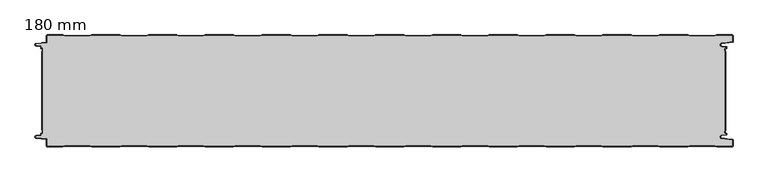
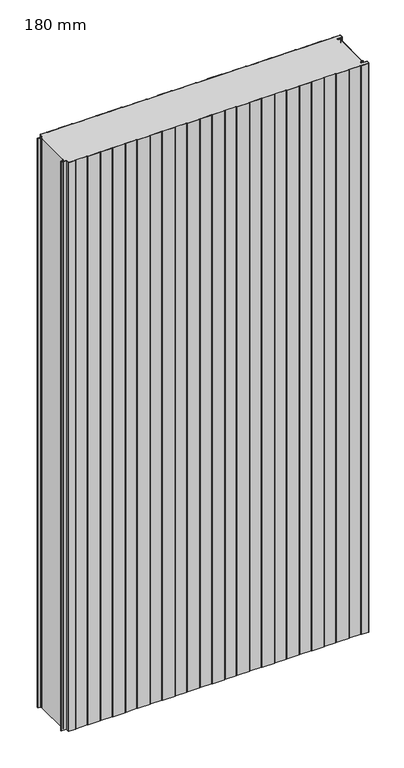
"""IFC4 building model written with IfcOpenShell, lengths in millimetres: plate geometry, HIANSA PANEL - H20.F03.001-PANEL FRIGORÍFICO - PANEL FRIGO - Panel de Muro Cortina : 180 mm."""

from ifc_helpers import new_model, si_unit, point, frame_2d, origin, origin_with_axes, place, context, project, spatial, polyline, circle_curve, trimmed, segment, composite_curve, outline, extrude, source, transform, mapped, element, save


def plate_180_mm_14f23be3(model_context):
    return source(origin(), model_context, "Body", "SweptSolid", [
        extrude(outline(polyline([(555.9827922, -154.0), (555.9827922, -26.0), (556.4221321, -26.6713576), (556.4221321, -153.3286424), (555.9827922, -154.0)])), origin_with_axes(), (0.0, 0.0, 1.0), 2200.0),
        extrude(outline(polyline([(-538.5172078, -26.0), (-538.5172078, -154.0), (-539.1172077, -152.9695032), (-539.1172077, -27.0304968), (-538.5172078, -26.0)])), origin_with_axes(), (0.0, 0.0, 1.0), 2200.0),
        extrude(outline(composite_curve([segment(polyline([(-370.9360691, -1.5), (-411.0983467, -1.5), (-414.0983467, -0.5), (-458.9360691, -0.5), (-461.9360691, -1.5), (-502.0983467, -1.5), (-505.0983467, -0.5), (-529.9172079, -0.5)]), True, "CONTINUOUS"), segment(trimmed(circle_curve(frame_2d((-529.9172079, -1.6)), 1.1), [point((-529.9172079, -0.5))], [point((-531.0172079, -1.6))], True, "CARTESIAN"), True, "CONTINUOUS"), segment(polyline([(-531.0172079, -1.6), (-531.0172079, -11.7987531)]), True, "CONTINUOUS"), segment(trimmed(circle_curve(frame_2d((-532.0172079, -11.7987531)), 1.0), [point((-531.0172079, -11.7987531))], [point((-531.9177042, -12.7937903))], False, "CARTESIAN"), True, "CONTINUOUS"), segment(polyline([(-531.9177042, -12.7937903), (-548.0592062, -14.4079404)]), True, "CONTINUOUS"), segment(trimmed(circle_curve(frame_2d((-547.9000002, -15.9999999)), 1.6), [point((-548.0592062, -14.4079404))], [point((-548.0592062, -17.5920594))], True, "CARTESIAN"), True, "CONTINUOUS"), segment(polyline([(-548.0592062, -17.5920594), (-541.4177042, -18.2562097)]), True, "CONTINUOUS"), segment(trimmed(circle_curve(frame_2d((-541.5172079, -19.2512469)), 1.0), [point((-541.4177042, -18.2562097))], [point((-540.5172079, -19.2512469))], False, "CARTESIAN"), True, "CONTINUOUS"), segment(polyline([(-540.5172079, -19.2512469), (-540.5172079, -21.5), (-539.0172079, -21.5)]), True, "CONTINUOUS"), segment(trimmed(circle_curve(frame_2d((-539.0172079, -22.5)), 1.0), [point((-539.0172079, -21.5))], [point((-538.0172079, -22.5))], False, "CARTESIAN"), True, "CONTINUOUS"), segment(polyline([(-538.0172079, -22.5), (-538.0172079, -25.1412526), (-538.5172079, -26.0), (-538.5172079, -22.0), (-540.0172079, -22.0)]), True, "CONTINUOUS"), segment(trimmed(circle_curve(frame_2d((-540.0172079, -21.0)), 1.0), [point((-540.0172079, -22.0))], [point((-541.0172079, -21.0))], False, "CARTESIAN"), True, "CONTINUOUS"), segment(polyline([(-541.0172079, -21.0), (-541.0172079, -18.7987531), (-548.1089579, -18.0895783)]), True, "CONTINUOUS"), segment(trimmed(circle_curve(frame_2d((-547.9000002, -16.0000002)), 2.1), [point((-548.1089579, -18.0895783))], [point((-548.108958, -13.9104221))], False, "CARTESIAN"), True, "CONTINUOUS"), segment(polyline([(-548.108958, -13.9104221), (-531.5172079, -12.2512469), (-531.5172079, -1.6)]), True, "CONTINUOUS"), segment(trimmed(circle_curve(frame_2d((-529.9172079, -1.6)), 1.6), [point((-531.5172079, -1.6))], [point((-529.9172079, 0.0))], False, "CARTESIAN"), True, "CONTINUOUS"), segment(polyline([(-529.9172079, 0.0), (-505.0172079, 0.0), (-502.0172079, -1.0), (-462.0172079, -1.0), (-459.0172079, 0.0), (-414.0172079, 0.0), (-411.0172079, -1.0), (-371.0172079, -1.0), (-368.0172079, 0.0), (-323.0172079, 0.0), (-320.0172079, -1.0), (-280.0172079, -1.0), (-277.0172079, 0.0), (-232.0172079, 0.0), (-229.0172079, -1.0), (-189.0172079, -1.0), (-186.0172079, 0.0), (-141.0172079, 0.0), (-138.0172079, -1.0), (-98.0172079, -1.0), (-95.0172079, 0.0), (-50.0172079, 0.0), (-47.0172079, -1.0), (-7.0172079, -1.0), (-4.0172079, 0.0), (40.9827921, 0.0), (43.9827921, -1.0), (83.9827921, -1.0), (86.9827921, 0.0), (131.9827921, 0.0), (134.9827921, -1.0), (174.9827921, -1.0), (177.9827921, 0.0), (222.9827921, 0.0), (225.9827921, -1.0), (265.9827921, -1.0), (268.9827921, 0.0), (313.9827921, 0.0), (316.9827921, -1.0), (356.9827921, -1.0), (359.9827921, 0.0), (404.9827921, 0.0), (407.9827921, -1.0), (447.9827921, -1.0), (450.9827921, 0.0), (495.9827921, 0.0), (498.9827921, -1.0), (538.9827921, -1.0), (541.9827921, 0.0), (566.8827921, 0.0)]), True, "CONTINUOUS"), segment(trimmed(circle_curve(frame_2d((566.8827921, -1.6)), 1.6), [point((566.8827921, 0.0))], [point((568.4827921, -1.6))], False, "CARTESIAN"), True, "CONTINUOUS"), segment(polyline([(568.4827921, -1.6), (568.4827921, -11.0950124)]), True, "CONTINUOUS"), segment(trimmed(circle_curve(frame_2d((567.4827921, -11.0950124)), 1.0), [point((568.4827921, -11.0950124))], [point((567.5822958, -12.0900496))], False, "CARTESIAN"), True, "CONTINUOUS"), segment(polyline([(567.5822958, -12.0900496), (550.2837847, -13.8199007)]), True, "CONTINUOUS"), segment(trimmed(circle_curve(frame_2d((550.5873461, -16.0)), 2.2011321), [point((550.2837847, -13.8199007))], [point((550.2837847, -18.1800993))], True, "CARTESIAN"), True, "CONTINUOUS"), segment(polyline([(550.2837847, -18.1800993), (557.5822958, -18.9099504)]), True, "CONTINUOUS"), segment(trimmed(circle_curve(frame_2d((557.4827921, -19.9049876)), 1.0), [point((557.5822958, -18.9099504))], [point((558.4827921, -19.9049876))], False, "CARTESIAN"), True, "CONTINUOUS"), segment(polyline([(558.4827921, -19.9049876), (558.4827921, -21.0)]), True, "CONTINUOUS"), segment(trimmed(circle_curve(frame_2d((557.4827921, -21.0)), 1.0), [point((558.4827921, -21.0))], [point((557.4827921, -22.0))], False, "CARTESIAN"), True, "CONTINUOUS"), segment(polyline([(557.4827921, -22.0), (555.9827921, -22.0), (555.9827921, -26.0), (555.4827921, -25.2359473), (555.4827921, -22.5)]), True, "CONTINUOUS"), segment(trimmed(circle_curve(frame_2d((556.4827921, -22.5)), 1.0), [point((555.4827921, -22.5))], [point((556.4827921, -21.5))], False, "CARTESIAN"), True, "CONTINUOUS"), segment(polyline([(556.4827921, -21.5), (557.9827921, -21.5), (557.9827921, -19.4524938), (550.2340328, -18.6776179)]), True, "CONTINUOUS"), segment(trimmed(circle_curve(frame_2d((550.5859823, -16.0)), 2.7006492), [point((550.2340328, -18.6776179))], [point((550.2340328, -13.3223821))], False, "CARTESIAN"), True, "CONTINUOUS"), segment(polyline([(550.2340328, -13.3223821), (567.9827921, -11.5475062), (567.9827921, -1.6)]), True, "CONTINUOUS"), segment(trimmed(circle_curve(frame_2d((566.8827921, -1.6)), 1.1), [point((567.9827921, -1.6))], [point((566.8827921, -0.5))], True, "CARTESIAN"), True, "CONTINUOUS"), segment(polyline([(566.8827921, -0.5), (542.0639309, -0.5), (539.0639309, -1.5), (498.9016533, -1.5), (495.9016533, -0.5), (451.0639309, -0.5), (448.0639309, -1.5), (407.9016533, -1.5), (404.9016533, -0.5), (360.0639309, -0.5), (357.0639309, -1.5), (316.9016533, -1.5), (313.9016533, -0.5), (269.0639309, -0.5), (266.0639309, -1.5), (225.9016533, -1.5), (222.9016533, -0.5), (178.0639309, -0.5), (175.0639309, -1.5), (134.9016533, -1.5), (131.9016533, -0.5), (87.0639309, -0.5), (84.0639309, -1.5), (43.9016533, -1.5), (40.9016533, -0.5), (-3.9360691, -0.5), (-6.9360691, -1.5), (-47.0983467, -1.5), (-50.0983467, -0.5), (-94.9360691, -0.5), (-97.9360691, -1.5), (-138.0983467, -1.5), (-141.0983467, -0.5), (-185.9360691, -0.5), (-188.9360691, -1.5), (-229.0983467, -1.5), (-232.0983467, -0.5), (-276.9360691, -0.5), (-279.9360691, -1.5), (-320.0983467, -1.5), (-323.0983467, -0.5), (-367.9360691, -0.5), (-370.9360691, -1.5)]), True, "CONTINUOUS")], self_intersect=False)), origin_with_axes(), (0.0, 0.0, 1.0), 2200.0),
        extrude(outline(composite_curve([segment(polyline([(-370.9360691, -178.5), (-367.9360691, -179.5), (-323.0983467, -179.5), (-320.0983467, -178.5), (-279.9360691, -178.5), (-276.9360691, -179.5), (-232.0983467, -179.5), (-229.0983467, -178.5), (-188.9360691, -178.5), (-185.9360691, -179.5), (-141.0983467, -179.5), (-138.0983467, -178.5), (-97.9360691, -178.5), (-94.9360691, -179.5), (-50.0983467, -179.5), (-47.0983467, -178.5), (-6.9360691, -178.5), (-3.9360691, -179.5), (40.9016533, -179.5), (43.9016533, -178.5), (84.0639309, -178.5), (87.0639309, -179.5), (131.9016533, -179.5), (134.9016533, -178.5), (175.0639309, -178.5), (178.0639309, -179.5), (222.9016533, -179.5), (225.9016533, -178.5), (266.0639309, -178.5), (269.0639309, -179.5), (313.9016533, -179.5), (316.9016533, -178.5), (357.0639309, -178.5), (360.0639309, -179.5), (404.9016533, -179.5), (407.9016533, -178.5), (448.0639309, -178.5), (451.0639309, -179.5), (495.9016533, -179.5), (498.9016533, -178.5), (539.0639309, -178.5), (542.0639309, -179.5), (566.8827921, -179.5)]), True, "CONTINUOUS"), segment(trimmed(circle_curve(frame_2d((566.8827921, -178.4)), 1.1), [point((566.8827921, -179.5))], [point((567.9827921, -178.4))], True, "CARTESIAN"), True, "CONTINUOUS"), segment(polyline([(567.9827921, -178.4), (567.9827921, -168.4524938), (550.2340328, -166.6776179)]), True, "CONTINUOUS"), segment(trimmed(circle_curve(frame_2d((550.5859823, -164.0)), 2.7006492), [point((550.2340328, -166.6776179))], [point((550.2340328, -161.3223821))], False, "CARTESIAN"), True, "CONTINUOUS"), segment(polyline([(550.2340328, -161.3223821), (557.9827921, -160.5475062), (557.9827921, -158.5), (556.4827921, -158.5)]), True, "CONTINUOUS"), segment(trimmed(circle_curve(frame_2d((556.4827921, -157.5)), 1.0), [point((556.4827921, -158.5))], [point((555.4827921, -157.5))], False, "CARTESIAN"), True, "CONTINUOUS"), segment(polyline([(555.4827921, -157.5), (555.4827921, -154.7640527), (555.9827921, -154.0), (555.9827921, -158.0), (557.4827921, -158.0)]), True, "CONTINUOUS"), segment(trimmed(circle_curve(frame_2d((557.4827921, -159.0)), 1.0), [point((557.4827921, -158.0))], [point((558.4827921, -159.0))], False, "CARTESIAN"), True, "CONTINUOUS"), segment(polyline([(558.4827921, -159.0), (558.4827921, -160.0950124)]), True, "CONTINUOUS"), segment(trimmed(circle_curve(frame_2d((557.4827921, -160.0950124)), 1.0), [point((558.4827921, -160.0950124))], [point((557.5822958, -161.0900496))], False, "CARTESIAN"), True, "CONTINUOUS"), segment(polyline([(557.5822958, -161.0900496), (550.2837847, -161.8199007)]), True, "CONTINUOUS"), segment(trimmed(circle_curve(frame_2d((550.5873461, -164.0)), 2.2011321), [point((550.2837847, -161.8199007))], [point((550.2837847, -166.1800993))], True, "CARTESIAN"), True, "CONTINUOUS"), segment(polyline([(550.2837847, -166.1800993), (567.5822958, -167.9099504)]), True, "CONTINUOUS"), segment(trimmed(circle_curve(frame_2d((567.4827921, -168.9049876)), 1.0), [point((567.5822958, -167.9099504))], [point((568.4827921, -168.9049876))], False, "CARTESIAN"), True, "CONTINUOUS"), segment(polyline([(568.4827921, -168.9049876), (568.4827921, -178.4)]), True, "CONTINUOUS"), segment(trimmed(circle_curve(frame_2d((566.8827921, -178.4)), 1.6), [point((568.4827921, -178.4))], [point((566.8827921, -180.0))], False, "CARTESIAN"), True, "CONTINUOUS"), segment(polyline([(566.8827921, -180.0), (541.9827921, -180.0), (538.9827921, -179.0), (498.9827921, -179.0), (495.9827921, -180.0), (450.9827921, -180.0), (447.9827921, -179.0), (407.9827921, -179.0), (404.9827921, -180.0), (359.9827921, -180.0), (356.9827921, -179.0), (316.9827921, -179.0), (313.9827921, -180.0), (268.9827921, -180.0), (265.9827921, -179.0), (225.9827921, -179.0), (222.9827921, -180.0), (177.9827921, -180.0), (174.9827921, -179.0), (134.9827921, -179.0), (131.9827921, -180.0), (86.9827921, -180.0), (83.9827921, -179.0), (43.9827921, -179.0), (40.9827921, -180.0), (-4.0172079, -180.0), (-7.0172079, -179.0), (-47.0172079, -179.0), (-50.0172079, -180.0), (-95.0172079, -180.0), (-98.0172079, -179.0), (-138.0172079, -179.0), (-141.0172079, -180.0), (-186.0172079, -180.0), (-189.0172079, -179.0), (-229.0172079, -179.0), (-232.0172079, -180.0), (-277.0172079, -180.0), (-280.0172079, -179.0), (-320.0172079, -179.0), (-323.0172079, -180.0), (-368.0172079, -180.0), (-371.0172079, -179.0), (-411.0172079, -179.0), (-414.0172079, -180.0), (-459.0172079, -180.0), (-462.0172079, -179.0), (-502.0172079, -179.0), (-505.0172079, -180.0), (-529.9172079, -180.0)]), True, "CONTINUOUS"), segment(trimmed(circle_curve(frame_2d((-529.9172079, -178.4)), 1.6), [point((-529.9172079, -180.0))], [point((-531.5172079, -178.4))], False, "CARTESIAN"), True, "CONTINUOUS"), segment(polyline([(-531.5172079, -178.4), (-531.5172079, -167.7487531), (-548.108958, -166.0895779)]), True, "CONTINUOUS"), segment(trimmed(circle_curve(frame_2d((-547.9000002, -163.9999998)), 2.1), [point((-548.108958, -166.0895779))], [point((-548.1089579, -161.9104217))], False, "CARTESIAN"), True, "CONTINUOUS"), segment(polyline([(-548.1089579, -161.9104217), (-541.0172079, -161.2012469), (-541.0172079, -159.0)]), True, "CONTINUOUS"), segment(trimmed(circle_curve(frame_2d((-540.0172079, -159.0)), 1.0), [point((-541.0172079, -159.0))], [point((-540.0172079, -158.0))], False, "CARTESIAN"), True, "CONTINUOUS"), segment(polyline([(-540.0172079, -158.0), (-538.5172079, -158.0), (-538.5172079, -154.0), (-538.0172079, -154.8587474), (-538.0172079, -157.5)]), True, "CONTINUOUS"), segment(trimmed(circle_curve(frame_2d((-539.0172079, -157.5)), 1.0), [point((-538.0172079, -157.5))], [point((-539.0172079, -158.5))], False, "CARTESIAN"), True, "CONTINUOUS"), segment(polyline([(-539.0172079, -158.5), (-540.5172079, -158.5), (-540.5172079, -160.7487531)]), True, "CONTINUOUS"), segment(trimmed(circle_curve(frame_2d((-541.5172079, -160.7487531)), 1.0), [point((-540.5172079, -160.7487531))], [point((-541.4177042, -161.7437903))], False, "CARTESIAN"), True, "CONTINUOUS"), segment(polyline([(-541.4177042, -161.7437903), (-548.0592062, -162.4079406)]), True, "CONTINUOUS"), segment(trimmed(circle_curve(frame_2d((-547.9000002, -164.0000001)), 1.6), [point((-548.0592062, -162.4079406))], [point((-548.0592062, -165.5920596))], True, "CARTESIAN"), True, "CONTINUOUS"), segment(polyline([(-548.0592062, -165.5920596), (-531.9177042, -167.2062097)]), True, "CONTINUOUS"), segment(trimmed(circle_curve(frame_2d((-532.0172079, -168.2012469)), 1.0), [point((-531.9177042, -167.2062097))], [point((-531.0172079, -168.2012469))], False, "CARTESIAN"), True, "CONTINUOUS"), segment(polyline([(-531.0172079, -168.2012469), (-531.0172079, -178.4)]), True, "CONTINUOUS"), segment(trimmed(circle_curve(frame_2d((-529.9172079, -178.4)), 1.1), [point((-531.0172079, -178.4))], [point((-529.9172079, -179.5))], True, "CARTESIAN"), True, "CONTINUOUS"), segment(polyline([(-529.9172079, -179.5), (-505.0983467, -179.5), (-502.0983467, -178.5), (-461.9360691, -178.5), (-458.9360691, -179.5), (-414.0983467, -179.5), (-411.0983467, -178.5), (-370.9360691, -178.5)]), True, "CONTINUOUS")], self_intersect=False)), origin_with_axes(), (0.0, 0.0, 1.0), 2200.0),
        extrude(outline(composite_curve([segment(polyline([(-461.936069, -1.5), (-458.936069, -0.5), (-414.0983467, -0.5), (-411.0983467, -1.5), (-370.936069, -1.5), (-367.936069, -0.5), (-323.0983467, -0.5), (-320.0983467, -1.5), (-279.936069, -1.5), (-276.936069, -0.5), (-232.0983467, -0.5), (-229.0983467, -1.5), (-188.936069, -1.5), (-185.936069, -0.5), (-141.0983467, -0.5), (-138.0983467, -1.5), (-97.936069, -1.5), (-94.936069, -0.5), (-50.0983467, -0.5), (-47.0983467, -1.5), (-6.936069, -1.5), (-3.936069, -0.5), (40.9016533, -0.5), (43.9016533, -1.5), (84.063931, -1.5), (87.063931, -0.5), (131.9016533, -0.5), (134.9016533, -1.5), (175.063931, -1.5), (178.063931, -0.5), (222.9016533, -0.5), (225.9016533, -1.5), (266.063931, -1.5), (269.063931, -0.5), (313.9016533, -0.5), (316.9016533, -1.5), (357.063931, -1.5), (360.063931, -0.5), (404.9016533, -0.5), (407.9016533, -1.5), (448.063931, -1.5), (451.063931, -0.5), (495.9016533, -0.5), (498.9016533, -1.5), (539.063931, -1.5), (542.063931, -0.5), (566.8827921, -0.5)]), True, "CONTINUOUS"), segment(trimmed(circle_curve(frame_2d((566.8827921, -1.6)), 1.1), [point((566.8827921, -0.5))], [point((567.9827921, -1.6))], False, "CARTESIAN"), True, "CONTINUOUS"), segment(polyline([(567.9827921, -1.6), (567.9827921, -11.5475062), (550.2340328, -13.3223821)]), True, "CONTINUOUS"), segment(trimmed(circle_curve(frame_2d((550.5859824, -16.0)), 2.7006492), [point((550.2340328, -13.3223821))], [point((550.2340328, -18.6776179))], True, "CARTESIAN"), True, "CONTINUOUS"), segment(polyline([(550.2340328, -18.6776179), (557.9827921, -19.4524938), (557.9827921, -21.5), (556.4827921, -21.5)]), True, "CONTINUOUS"), segment(trimmed(circle_curve(frame_2d((556.4827921, -22.5)), 1.0), [point((556.4827921, -21.5))], [point((555.4827921, -22.5))], True, "CARTESIAN"), True, "CONTINUOUS"), segment(polyline([(555.4827921, -22.5), (555.4827921, -25.2359473), (555.9827921, -26.0), (555.9827921, -154.0), (555.4827921, -154.7640527), (555.4827921, -157.5)]), True, "CONTINUOUS"), segment(trimmed(circle_curve(frame_2d((556.4827921, -157.5)), 1.0), [point((555.4827921, -157.5))], [point((556.4827921, -158.5))], True, "CARTESIAN"), True, "CONTINUOUS"), segment(polyline([(556.4827921, -158.5), (557.9827921, -158.5), (557.9827921, -160.5475062), (550.2340328, -161.3223821)]), True, "CONTINUOUS"), segment(trimmed(circle_curve(frame_2d((550.5859824, -164.0)), 2.7006492), [point((550.2340328, -161.3223821))], [point((550.2340328, -166.6776179))], True, "CARTESIAN"), True, "CONTINUOUS"), segment(polyline([(550.2340328, -166.6776179), (567.9827921, -168.4524938), (567.9827921, -178.4)]), True, "CONTINUOUS"), segment(trimmed(circle_curve(frame_2d((566.8827921, -178.4)), 1.1), [point((567.9827921, -178.4))], [point((566.8827921, -179.5))], False, "CARTESIAN"), True, "CONTINUOUS"), segment(polyline([(566.8827921, -179.5), (542.063931, -179.5), (539.063931, -178.5), (498.9016533, -178.5), (495.9016533, -179.5), (451.063931, -179.5), (448.063931, -178.5), (407.9016533, -178.5), (404.9016533, -179.5), (360.063931, -179.5), (357.063931, -178.5), (316.9016533, -178.5), (313.9016533, -179.5), (269.063931, -179.5), (266.063931, -178.5), (225.9016533, -178.5), (222.9016533, -179.5), (178.063931, -179.5), (175.063931, -178.5), (134.9016533, -178.5), (131.9016533, -179.5), (87.063931, -179.5), (84.063931, -178.5), (43.9016533, -178.5), (40.9016533, -179.5), (-3.936069, -179.5), (-6.936069, -178.5), (-47.0983467, -178.5), (-50.0983467, -179.5), (-94.936069, -179.5), (-97.936069, -178.5), (-138.0983467, -178.5), (-141.0983467, -179.5), (-185.936069, -179.5), (-188.936069, -178.5), (-229.0983467, -178.5), (-232.0983467, -179.5), (-276.936069, -179.5), (-279.936069, -178.5), (-320.0983467, -178.5), (-323.0983467, -179.5), (-367.936069, -179.5), (-370.936069, -178.5), (-411.0983467, -178.5), (-414.0983467, -179.5), (-458.936069, -179.5), (-461.936069, -178.5), (-502.0983467, -178.5), (-505.0983467, -179.5), (-529.9172079, -179.5)]), True, "CONTINUOUS"), segment(trimmed(circle_curve(frame_2d((-529.9172079, -178.4)), 1.1), [point((-529.9172079, -179.5))], [point((-531.0172079, -178.4))], False, "CARTESIAN"), True, "CONTINUOUS"), segment(polyline([(-531.0172079, -178.4), (-531.0172079, -168.2012469)]), True, "CONTINUOUS"), segment(trimmed(circle_curve(frame_2d((-532.0172079, -168.2012469)), 1.0), [point((-531.0172079, -168.2012469))], [point((-531.9177042, -167.2062097))], True, "CARTESIAN"), True, "CONTINUOUS"), segment(polyline([(-531.9177042, -167.2062097), (-548.0592062, -165.5920596)]), True, "CONTINUOUS"), segment(trimmed(circle_curve(frame_2d((-547.9000002, -164.0000001)), 1.6), [point((-548.0592062, -165.5920596))], [point((-548.0592062, -162.4079406))], False, "CARTESIAN"), True, "CONTINUOUS"), segment(polyline([(-548.0592062, -162.4079406), (-541.4177041, -161.7437903)]), True, "CONTINUOUS"), segment(trimmed(circle_curve(frame_2d((-541.5172079, -160.7487531)), 1.0), [point((-541.4177041, -161.7437903))], [point((-540.5172079, -160.7487531))], True, "CARTESIAN"), True, "CONTINUOUS"), segment(polyline([(-540.5172079, -160.7487531), (-540.5172079, -158.5), (-539.0172079, -158.5)]), True, "CONTINUOUS"), segment(trimmed(circle_curve(frame_2d((-539.0172079, -157.5)), 1.0), [point((-539.0172079, -158.5))], [point((-538.0172079, -157.5))], True, "CARTESIAN"), True, "CONTINUOUS"), segment(polyline([(-538.0172079, -157.5), (-538.0172079, -154.8587474), (-538.5172079, -154.0), (-538.5172079, -26.0), (-538.0172079, -25.1412526), (-538.0172079, -22.5)]), True, "CONTINUOUS"), segment(trimmed(circle_curve(frame_2d((-539.0172079, -22.5)), 1.0), [point((-538.0172079, -22.5))], [point((-539.0172079, -21.5))], True, "CARTESIAN"), True, "CONTINUOUS"), segment(polyline([(-539.0172079, -21.5), (-540.5172079, -21.5), (-540.5172079, -19.2512469)]), True, "CONTINUOUS"), segment(trimmed(circle_curve(frame_2d((-541.5172079, -19.2512469)), 1.0), [point((-540.5172079, -19.2512469))], [point((-541.4177041, -18.2562097))], True, "CARTESIAN"), True, "CONTINUOUS"), segment(polyline([(-541.4177041, -18.2562097), (-548.0592062, -17.5920594)]), True, "CONTINUOUS"), segment(trimmed(circle_curve(frame_2d((-547.9000003, -15.9999999)), 1.6), [point((-548.0592062, -17.5920594))], [point((-548.0592062, -14.4079404))], False, "CARTESIAN"), True, "CONTINUOUS"), segment(polyline([(-548.0592062, -14.4079404), (-531.9177042, -12.7937903)]), True, "CONTINUOUS"), segment(trimmed(circle_curve(frame_2d((-532.0172079, -11.7987531)), 1.0), [point((-531.9177042, -12.7937903))], [point((-531.0172079, -11.7987531))], True, "CARTESIAN"), True, "CONTINUOUS"), segment(polyline([(-531.0172079, -11.7987531), (-531.0172079, -1.6)]), True, "CONTINUOUS"), segment(trimmed(circle_curve(frame_2d((-529.9172079, -1.6)), 1.1), [point((-531.0172079, -1.6))], [point((-529.9172079, -0.5))], False, "CARTESIAN"), True, "CONTINUOUS"), segment(polyline([(-529.9172079, -0.5), (-505.0983467, -0.5), (-502.0983467, -1.5), (-461.936069, -1.5)]), True, "CONTINUOUS")], self_intersect=False)), origin_with_axes(), (0.0, 0.0, 1.0), 2200.0),
    ])


if __name__ == "__main__":
    model = new_model("IFC4")
    model_context = context("Model", 3, world=origin())
    ifc_project = project(units=[si_unit("LENGTHUNIT", "METRE", prefix="MILLI")], contexts=[model_context])
    site = spatial("IfcSite", under=ifc_project)
    building = spatial("IfcBuilding", under=site)
    placement = place(None, origin())
    plate_180_mm_shape = plate_180_mm_14f23be3(model_context)
    element("IfcPlate", 1, ObjectType="HIANSA PANEL - H20.F03.001-PANEL FRIGORÍFICO - PANEL FRIGO - Panel de Muro Cortina : 180 mm", at=placement, inside=building, context=model_context, shape_type="MappedRepresentation", body=[
        mapped(plate_180_mm_shape, transform((0.0, 0.0, 0.0), x_axis=(1.0, 0.0, 0.0), y_axis=(0.0, 1.0, 0.0), z_axis=(0.0, 0.0, 1.0))),
    ])
    save(model, "model.ifc")
